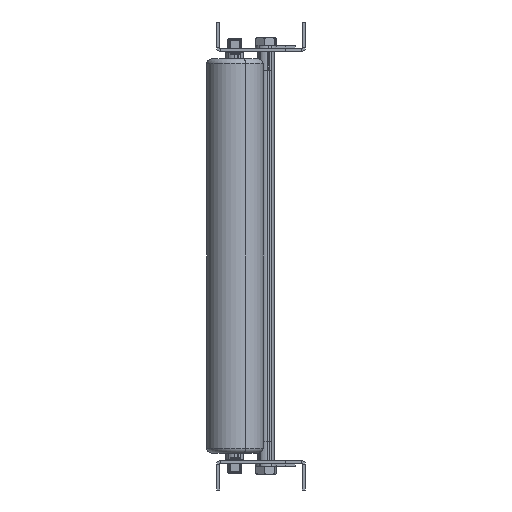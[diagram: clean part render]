
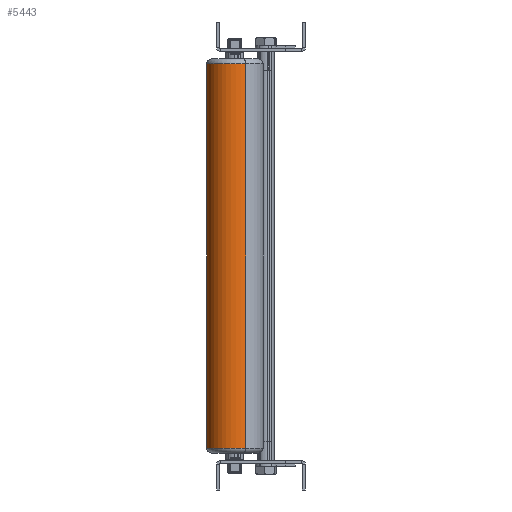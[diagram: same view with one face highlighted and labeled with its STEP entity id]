
A CAD part, left-side view. The second image highlights one B-rep face of the part: STEP entity #5443.
In plain terms, the highlighted cylindrical face has radius 28.6 mm (diameter 57.2 mm), a partial arc.
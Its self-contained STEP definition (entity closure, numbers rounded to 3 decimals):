
#3984 = CARTESIAN_POINT ( 'NONE',  ( -1762.545, -581.955, 110.697 ) ) ;
#5443 = ADVANCED_FACE ( 'NONE', ( #22704 ), #63280, .T. ) ;
#5724 = DIRECTION ( 'NONE',  ( 0., 0., 1. ) ) ;
#7657 = DIRECTION ( 'NONE',  ( 0., 0., 1. ) ) ;
#8186 = ORIENTED_EDGE ( 'NONE', *, *, #89043, .T. ) ;
#11665 = CARTESIAN_POINT ( 'NONE',  ( -1788.964, -592.91, 110.697 ) ) ;
#13920 = VECTOR ( 'NONE', #60598, 1000. ) ;
#15763 = CARTESIAN_POINT ( 'NONE',  ( -1788.964, -592.91, -279.303 ) ) ;
#17544 = EDGE_CURVE ( 'NONE', #38139, #57620, #29528, .T. ) ;
#18475 = ORIENTED_EDGE ( 'NONE', *, *, #32607, .F. ) ;
#18969 = DIRECTION ( 'NONE',  ( 0., 0., -1. ) ) ;
#22704 = FACE_OUTER_BOUND ( 'NONE', #44963, .T. ) ;
#23047 = DIRECTION ( 'NONE',  ( 0., 0., 1. ) ) ;
#23534 = AXIS2_PLACEMENT_3D ( 'NONE', #11665, #18969, #60460 ) ;
#25369 = LINE ( 'NONE', #38569, #45474 ) ;
#27932 = CARTESIAN_POINT ( 'NONE',  ( -1815.382, -603.866, 110.697 ) ) ;
#28427 = EDGE_CURVE ( 'NONE', #61746, #38139, #25369, .T. ) ;
#29528 = CIRCLE ( 'NONE', #23534, 28.6 ) ;
#32607 = EDGE_CURVE ( 'NONE', #34096, #57620, #33223, .T. ) ;
#33223 = LINE ( 'NONE', #82034, #13920 ) ;
#34096 = VERTEX_POINT ( 'NONE', #50983 ) ;
#36346 = CARTESIAN_POINT ( 'NONE',  ( -1788.964, -592.91, -284.303 ) ) ;
#38139 = VERTEX_POINT ( 'NONE', #27932 ) ;
#38569 = CARTESIAN_POINT ( 'NONE',  ( -1815.382, -603.866, -284.303 ) ) ;
#40744 = AXIS2_PLACEMENT_3D ( 'NONE', #36346, #7657, #50508 ) ;
#42155 = CIRCLE ( 'NONE', #88793, 28.6 ) ;
#43979 = DIRECTION ( 'NONE',  ( -0.924, -0.383, 0. ) ) ;
#44220 = CARTESIAN_POINT ( 'NONE',  ( -1815.382, -603.866, -279.303 ) ) ;
#44963 = EDGE_LOOP ( 'NONE', ( #8186, #60817, #58362, #18475 ) ) ;
#45474 = VECTOR ( 'NONE', #5724, 1000. ) ;
#50508 = DIRECTION ( 'NONE',  ( 0.924, 0.383, 0. ) ) ;
#50983 = CARTESIAN_POINT ( 'NONE',  ( -1762.545, -581.955, -279.303 ) ) ;
#57620 = VERTEX_POINT ( 'NONE', #3984 ) ;
#58362 = ORIENTED_EDGE ( 'NONE', *, *, #17544, .T. ) ;
#60460 = DIRECTION ( 'NONE',  ( -0.924, -0.383, 0. ) ) ;
#60598 = DIRECTION ( 'NONE',  ( 0., 0., 1. ) ) ;
#60817 = ORIENTED_EDGE ( 'NONE', *, *, #28427, .T. ) ;
#61746 = VERTEX_POINT ( 'NONE', #44220 ) ;
#63280 = CYLINDRICAL_SURFACE ( 'NONE', #40744, 28.6 ) ;
#82034 = CARTESIAN_POINT ( 'NONE',  ( -1762.545, -581.955, -284.303 ) ) ;
#88793 = AXIS2_PLACEMENT_3D ( 'NONE', #15763, #23047, #43979 ) ;
#89043 = EDGE_CURVE ( 'NONE', #34096, #61746, #42155, .T. ) ;
